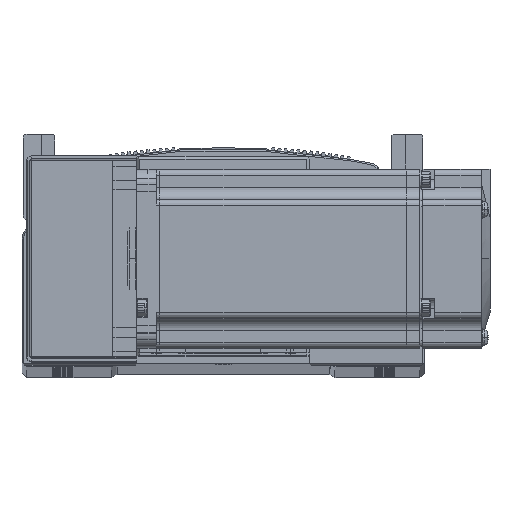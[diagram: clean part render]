
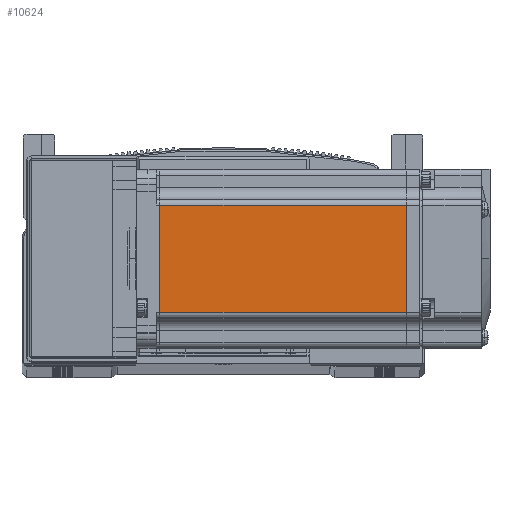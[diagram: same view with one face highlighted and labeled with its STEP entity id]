
A CAD part, top view. The second image highlights one B-rep face of the part: STEP entity #10624.
In plain terms, the highlighted planar face has unit normal (0, 0, 1) as drawn and (0, 0, -1) by its records, which use the part's own axes.
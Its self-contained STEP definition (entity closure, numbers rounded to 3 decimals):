
#4727 = EDGE_CURVE ( 'NONE', #41515, #41510, #8787, .T. ) ;
#4746 = EDGE_CURVE ( 'NONE', #41407, #41515, #8871, .T. ) ;
#4818 = EDGE_CURVE ( 'NONE', #41510, #41679, #8366, .T. ) ;
#7693 = ORIENTED_EDGE ( 'NONE', *, *, #4818, .T. ) ;
#8351 = VECTOR ( 'NONE', #66265, 1000. ) ;
#8366 = LINE ( 'NONE', #66253, #8351 ) ;
#8787 = LINE ( 'NONE', #58929, #8804 ) ;
#8804 = VECTOR ( 'NONE', #58913, 1000. ) ;
#8854 = VECTOR ( 'NONE', #58936, 1000. ) ;
#8871 = LINE ( 'NONE', #58971, #8854 ) ;
#10624 = ADVANCED_FACE ( 'NONE', ( #86972 ), #54135, .T. ) ;
#11106 = ORIENTED_EDGE ( 'NONE', *, *, #4727, .T. ) ;
#24100 = EDGE_LOOP ( 'NONE', ( #11106, #7693, #74407, #74528 ) ) ;
#31765 = EDGE_CURVE ( 'NONE', #41679, #41407, #49237, .T. ) ;
#37625 = DIRECTION ( 'NONE',  ( 0., 1., 0. ) ) ;
#37674 = CARTESIAN_POINT ( 'NONE',  ( -90.45, 25., -30. ) ) ;
#41407 = VERTEX_POINT ( 'NONE', #59647 ) ;
#41510 = VERTEX_POINT ( 'NONE', #59691 ) ;
#41515 = VERTEX_POINT ( 'NONE', #59762 ) ;
#41679 = VERTEX_POINT ( 'NONE', #59721 ) ;
#49237 = LINE ( 'NONE', #37674, #49243 ) ;
#49243 = VECTOR ( 'NONE', #37625, 1000. ) ;
#54105 = DIRECTION ( 'NONE',  ( 0., 0., -1. ) ) ;
#54111 = DIRECTION ( 'NONE',  ( -1., 0., 0. ) ) ;
#54135 = PLANE ( 'NONE',  #66064 ) ;
#54144 = CARTESIAN_POINT ( 'NONE',  ( -6.5, 25., -30. ) ) ;
#58913 = DIRECTION ( 'NONE',  ( 0., -1., 0. ) ) ;
#58929 = CARTESIAN_POINT ( 'NONE',  ( -7.75, 25., -30. ) ) ;
#58936 = DIRECTION ( 'NONE',  ( 1., 0., 0. ) ) ;
#58971 = CARTESIAN_POINT ( 'NONE',  ( -6.5, 18., -30. ) ) ;
#59647 = CARTESIAN_POINT ( 'NONE',  ( -90.45, 18., -30. ) ) ;
#59691 = CARTESIAN_POINT ( 'NONE',  ( -7.75, -18., -30. ) ) ;
#59721 = CARTESIAN_POINT ( 'NONE',  ( -90.45, -18., -30. ) ) ;
#59762 = CARTESIAN_POINT ( 'NONE',  ( -7.75, 18., -30. ) ) ;
#66064 = AXIS2_PLACEMENT_3D ( 'NONE', #54144, #54105, #54111 ) ;
#66253 = CARTESIAN_POINT ( 'NONE',  ( -6.5, -18., -30. ) ) ;
#66265 = DIRECTION ( 'NONE',  ( -1., 0., 0. ) ) ;
#74407 = ORIENTED_EDGE ( 'NONE', *, *, #31765, .T. ) ;
#74528 = ORIENTED_EDGE ( 'NONE', *, *, #4746, .T. ) ;
#86972 = FACE_OUTER_BOUND ( 'NONE', #24100, .T. ) ;
